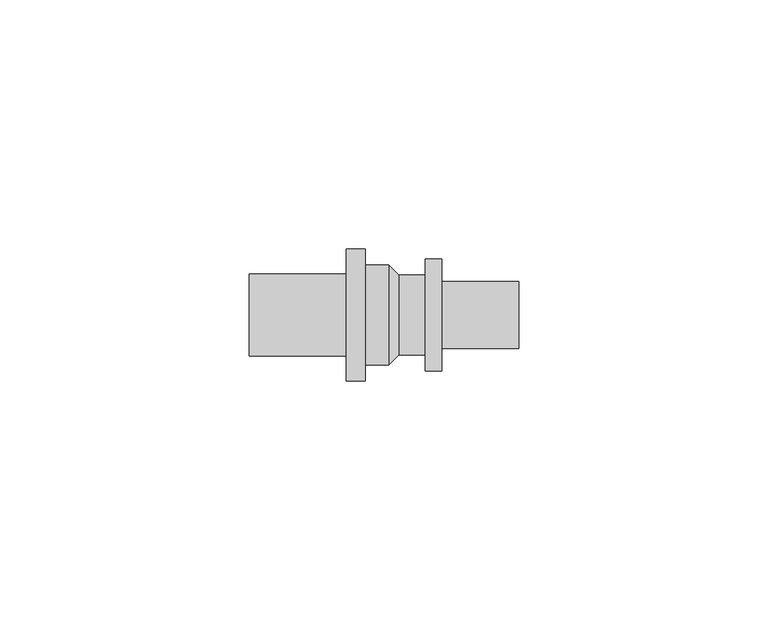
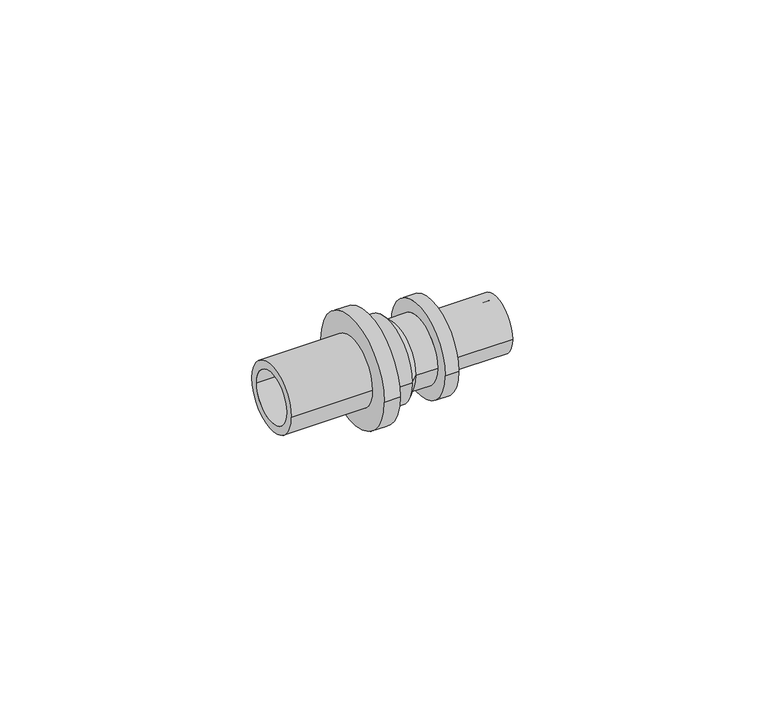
"""IFC4 building model written with IfcOpenShell, lengths in millimetres: pipe fitting geometry, RAUTITAN_Transition_LX : RTI LX Tr NL."""

import ifcopenshell
import ifcopenshell.guid

model = None  # the IFC model being written
_history = None  # IfcOwnerHistory: only IFC2X3 demands one
_inside = {}  # id of a spatial element -> (the spatial element, [elements in it])
_under = {}  # id of a project, library or spatial element -> (it, [spatial elements below it])
_declared = {}  # id of a project -> (the project, [libraries it declares])
_typed = {}  # id of a type object -> (the type object, [elements of that type])
_made_of = {}  # id of a material, layer set ... -> (it, [elements and type objects made of it])


def new_model(schema):
    """Start an empty IFC model of exactly this schema.

    Asked for "IFC4X3", IfcOpenShell would pick the latest addendum, in which some entities
    have other attributes; the version numbers below select the first issue.
    IFC2X3 requires an IfcOwnerHistory on every rooted entity: one is made here for all.
    """
    global model, _history
    if schema == "IFC4X3":
        model = ifcopenshell.file(schema_version=(4, 3, 0, 0))
    else:
        model = ifcopenshell.file(schema=schema)
    _inside.clear()
    _under.clear()
    _declared.clear()
    _typed.clear()
    _made_of.clear()
    _history = None
    if model.schema == "IFC2X3":
        org = make("IfcOrganization", Name="unknown")
        user = make(
            "IfcPersonAndOrganization",
            ThePerson=make("IfcPerson", FamilyName="unknown"),
            TheOrganization=org,
        )
        app = make(
            "IfcApplication",
            ApplicationDeveloper=org,
            Version="unknown",
            ApplicationFullName="unknown",
            ApplicationIdentifier="unknown",
        )
        _history = make(
            "IfcOwnerHistory",
            OwningUser=user,
            OwningApplication=app,
            ChangeAction="ADDED",
            CreationDate=0,
        )
    return model


def make(cls, **values):
    """One entity of the class cls with the attributes given. An attribute that is None is left unset."""
    return model.create_entity(
        cls, **{name: value for name, value in values.items() if value is not None}
    )


def rooted(cls, **values):
    """An entity with a GlobalId (a new one), such as an element, a storey or a relation."""
    return make(cls, GlobalId=ifcopenshell.guid.new(), OwnerHistory=_history, **values)


def si_unit(unit_type, name, prefix=None):
    """IfcSIUnit, for example si_unit("LENGTHUNIT", "METRE", prefix="MILLI")."""
    return make("IfcSIUnit", UnitType=unit_type, Prefix=prefix, Name=name)


def assignment(units):
    """IfcUnitAssignment: the units of a project."""
    return None if units is None else make("IfcUnitAssignment", Units=units)


def point(xyz):
    """IfcCartesianPoint."""
    return None if xyz is None else make("IfcCartesianPoint", Coordinates=xyz)


def direction(xyz):
    """IfcDirection."""
    return None if xyz is None else make("IfcDirection", DirectionRatios=xyz)


def frame(location, z_axis=None, x_axis=None):
    """IfcAxis2Placement3D, a coordinate frame: its origin and axes. An axis left out is left unset."""
    return make(
        "IfcAxis2Placement3D",
        Location=point(location),
        Axis=direction(z_axis),
        RefDirection=direction(x_axis),
    )


def origin():
    """The frame at (0, 0, 0) with its axes left unset."""
    return frame((0.0, 0.0, 0.0))


def place(relative_to, where):
    """IfcLocalPlacement: puts the frame where relative to a parent placement (None: the world)."""
    return make(
        "IfcLocalPlacement", PlacementRelTo=relative_to, RelativePlacement=where
    )


def context(
    kind, dimensions, precision=None, world=None, true_north=None, identifier=None
):
    """IfcGeometricRepresentationContext, for example the 3D "Model" context."""
    return make(
        "IfcGeometricRepresentationContext",
        ContextIdentifier=identifier,
        ContextType=kind,
        CoordinateSpaceDimension=dimensions,
        Precision=precision,
        WorldCoordinateSystem=world,
        TrueNorth=true_north,
    )


def project(units=None, contexts=None):
    """IfcProject with its units and contexts."""
    return rooted(
        "IfcProject",
        Name="project",
        RepresentationContexts=contexts,
        UnitsInContext=assignment(units),
    )


def spatial(cls, under=None, at=None, **own):
    """A site, building, storey or space (cls), placed at a placement, below another one or the project."""
    s = rooted(cls, ObjectPlacement=at, **own)
    if under is not None:
        _under.setdefault(under.id(), (under, []))[1].append(s)
    return s


def polyline(points):
    """IfcPolyline through the points."""
    return make("IfcPolyline", Points=[point(p) for p in points])


def circle_curve(where, radius):
    """IfcCircle in the frame where."""
    return make("IfcCircle", Position=where, Radius=radius)


def shape(context_of_items, identifier, shape_type, items):
    """IfcShapeRepresentation: the items that make up one representation, for example the "Body"."""
    return make(
        "IfcShapeRepresentation",
        ContextOfItems=context_of_items,
        RepresentationIdentifier=identifier,
        RepresentationType=shape_type,
        Items=items,
    )


def source(mapping_origin, context_of_items, identifier, shape_type, items):
    """IfcRepresentationMap: a shape defined once, which mapped items show again and again."""
    return make(
        "IfcRepresentationMap",
        MappingOrigin=mapping_origin,
        MappedRepresentation=shape(context_of_items, identifier, shape_type, items),
    )


def transform(
    local_origin,
    x_axis=None,
    y_axis=None,
    z_axis=None,
    scale=None,
    scale2=None,
    scale3=None,
    uniform=True,
):
    """IfcCartesianTransformationOperator3D, or its non-uniform kind. x_axis, y_axis, z_axis: its Axis1, 2, 3."""
    if uniform:
        return make(
            "IfcCartesianTransformationOperator3D",
            Axis1=direction(x_axis),
            Axis2=direction(y_axis),
            LocalOrigin=point(local_origin),
            Scale=scale,
            Axis3=direction(z_axis),
        )
    return make(
        "IfcCartesianTransformationOperator3DnonUniform",
        Axis1=direction(x_axis),
        Axis2=direction(y_axis),
        LocalOrigin=point(local_origin),
        Scale=scale,
        Axis3=direction(z_axis),
        Scale2=scale2,
        Scale3=scale3,
    )


def mapped(mapping_source, mapping_target):
    """IfcMappedItem: shows the shape of a source again, moved by a transform."""
    return make(
        "IfcMappedItem", MappingSource=mapping_source, MappingTarget=mapping_target
    )


def made_of(thing, what):
    """Note that an element or type object is made of a material, layer set ...; save() writes the relation."""
    if what is not None:
        _made_of.setdefault(what.id(), (what, []))[1].append(thing)
    return thing


def element(
    cls,
    number,
    at=None,
    inside=None,
    cuts=None,
    type_object=None,
    material=None,
    context=None,
    identifier="Body",
    shape_type=None,
    held_by="IfcProductDefinitionShape",
    body=None,
    shapes=None,
    **own,
):
    """One element of the class cls, such as IfcWall. Its Tag is "e" and its number.

    at: its placement. inside: the storey or other place that contains it. cuts: it is an
    opening in that element (IfcRelVoidsElement). A single representation is given by context,
    identifier, shape_type and body (its items); several are given by shapes. held_by: the class
    of the entity that holds the representations. save() writes the other relations.
    """
    e = rooted(cls, Tag="e%d" % number, ObjectPlacement=at, **own)
    if body is not None:
        shapes = [shape(context, identifier, shape_type, body)]
    if shapes is not None:
        e.Representation = make(held_by, Representations=shapes)
    if inside is not None:
        _inside.setdefault(inside.id(), (inside, []))[1].append(e)
    if cuts is not None:
        rooted(
            "IfcRelVoidsElement", RelatingBuildingElement=cuts, RelatedOpeningElement=e
        )
    if type_object is not None:
        _typed.setdefault(type_object.id(), (type_object, []))[1].append(e)
    return made_of(e, material)


def aggregate(whole, parts):
    """IfcRelAggregates: a whole, such as a stair, and the parts it consists of."""
    return rooted("IfcRelAggregates", RelatingObject=whole, RelatedObjects=parts)


def save(model, path):
    """Write the relations noted so far, then the file.

    IfcRelAggregates (storeys below a building ...), IfcRelContainedInSpatialStructure (elements
    in a storey), IfcRelDefinesByType, IfcRelAssociatesMaterial and IfcRelDeclares: one each for
    every whole, place, type object, material and project.
    """
    for whole, parts in _under.values():
        aggregate(whole, parts)
    for where, things in _inside.values():
        rooted(
            "IfcRelContainedInSpatialStructure",
            RelatedElements=things,
            RelatingStructure=where,
        )
    for kind, things in _typed.values():
        rooted("IfcRelDefinesByType", RelatedObjects=things, RelatingType=kind)
    for what, things in _made_of.values():
        rooted("IfcRelAssociatesMaterial", RelatedObjects=things, RelatingMaterial=what)
    for by, libraries in _declared.values():
        rooted("IfcRelDeclares", RelatingContext=by, RelatedDefinitions=libraries)
    model.write(path)


def plane_surface(at):
    """IfcPlane: the flat surface through the origin of the frame at, square to its z axis."""
    return make("IfcPlane", Position=at)


def cylinder_surface(at, radius):
    """IfcCylindricalSurface: all points at the distance radius from the z axis of the frame at."""
    return make("IfcCylindricalSurface", Position=at, Radius=radius)


def revolved_surface(curve, axis_point, axis_direction):
    """IfcSurfaceOfRevolution: the curve turned about the line through axis_point along axis_direction."""
    return make(
        "IfcSurfaceOfRevolution",
        SweptCurve=make("IfcArbitraryOpenProfileDef", ProfileType="CURVE", Curve=curve),
        AxisPosition=make("IfcAxis1Placement", Location=point(axis_point), Axis=direction(axis_direction)),
    )


def advanced_brep(points, edges, surfaces, faces):
    """IfcAdvancedBrep: a solid bounded by faces that lie on surfaces and meet in shared edges.

    An edge is (start, end): straight between two places in points (the first is 0);
    or (start, end, curve); or (start, end, curve, False) where it runs against its curve.
    A face is (place in surfaces, loops), or (place, loops, False) where it looks against
    its surface's normal. A loop lists edges by number (the first is 1), with a minus sign
    where the edge is run from its end to its start. The first loop is the outer one.
    """
    corners = [point(p) for p in points]
    vertices = [make("IfcVertexPoint", VertexGeometry=c) for c in corners]
    made = []
    for start, end, *more in edges:
        made.append(
            make(
                "IfcEdgeCurve",
                EdgeStart=vertices[start],
                EdgeEnd=vertices[end],
                EdgeGeometry=more[0] if more else make("IfcPolyline", Points=[corners[start], corners[end]]),
                SameSense=more[1] if len(more) > 1 else True,
            )
        )
    hull = []
    for where, loops, *sense in faces:
        bounds = []
        for j, loop in enumerate(loops):
            ring = [make("IfcOrientedEdge", EdgeElement=made[abs(k) - 1], Orientation=k > 0) for k in loop]
            bounds.append(
                make(
                    "IfcFaceOuterBound" if j == 0 else "IfcFaceBound",
                    Bound=make("IfcEdgeLoop", EdgeList=ring),
                    Orientation=True,
                )
            )
        hull.append(make("IfcAdvancedFace", Bounds=bounds, FaceSurface=surfaces[where], SameSense=sense[0] if sense else True))
    return make("IfcAdvancedBrep", Outer=make("IfcClosedShell", CfsFaces=hull))


def pipe_fitting_a8e717c4(model_context):
    return source(origin(), model_context, "Body", "AdvancedBrep", [
        advanced_brep(
        [(-29.05, 6.25, 0.0), (-29.05, -6.25, 0.0), (-0.65, -6.25, 0.0), (-0.65, 6.25, 0.0), (-1.0, 10.05, 0.0), (-1.0, -10.05, 0.0), (-5.75, -10.05, 0.0), (-5.75, 10.05, 0.0), (1.0, 8.05, 0.0), (1.0, -8.05, 0.0), (6.25, 8.05, 0.0), (6.25, -8.05, 0.0), (9.55, 11.25, 0.0), (9.55, -11.25, 0.0), (6.25, -11.25, 0.0), (6.25, 11.25, 0.0), (25.05, 6.75, 0.0), (25.05, -6.75, 0.0), (9.55, -6.75, 0.0), (9.55, 6.75, 0.0), (0.65, 4.95, 0.0), (0.65, -4.95, 0.0), (25.05, -4.95, 0.0), (25.05, 4.95, 0.0), (-5.75, 13.25, 0.0), (-5.75, -13.25, 0.0), (-9.55, 8.25, 0.0), (-9.55, -8.25, 0.0), (-29.05, -8.25, 0.0), (-29.05, 8.25, 0.0), (-9.55, -13.25, 0.0), (-9.55, 13.25, 0.0)],
        [
            (0, 1, circle_curve(frame((-29.05, 0.0, 0.0), z_axis=(-1.0, 0.0, 0.0), x_axis=(0.0, -1.0, 0.0)), 6.25)),
            (1, 2),
            (2, 3, circle_curve(frame((-0.65, 0.0, 0.0), z_axis=(1.0, 0.0, 0.0), x_axis=(0.0, -1.0, 0.0)), 6.25)),
            (3, 0),
            (4, 5, circle_curve(frame((-1.0, 0.0, 0.0), z_axis=(-1.0, 0.0, 0.0), x_axis=(0.0, -1.0, 0.0)), 10.05)),
            (5, 6),
            (6, 7, circle_curve(frame((-5.75, 0.0, 0.0), z_axis=(1.0, 0.0, 0.0), x_axis=(0.0, -1.0, 0.0)), 10.05)),
            (7, 4),
            (8, 9, circle_curve(frame((1.0, 0.0, 0.0), z_axis=(-1.0, 0.0, 0.0), x_axis=(0.0, -1.0, 0.0)), 8.05)),
            (9, 5),
            (4, 8),
            (10, 11, circle_curve(frame((6.25, 0.0, 0.0), z_axis=(-1.0, 0.0, 0.0), x_axis=(0.0, -1.0, 0.0)), 8.05)),
            (11, 9),
            (8, 10),
            (12, 13, circle_curve(frame((9.55, 0.0, 0.0), z_axis=(-1.0, 0.0, 0.0), x_axis=(0.0, -1.0, 0.0)), 11.25)),
            (13, 14),
            (14, 15, circle_curve(frame((6.25, 0.0, 0.0), z_axis=(1.0, 0.0, 0.0), x_axis=(0.0, -1.0, 0.0)), 11.25)),
            (15, 12),
            (16, 17, circle_curve(frame((25.05, 0.0, 0.0), z_axis=(-1.0, 0.0, 0.0), x_axis=(0.0, -1.0, 0.0)), 6.75)),
            (17, 18),
            (18, 19, circle_curve(frame((9.55, 0.0, 0.0), z_axis=(1.0, 0.0, 0.0), x_axis=(0.0, -1.0, 0.0)), 6.75)),
            (19, 16),
            (20, 21, circle_curve(frame((0.65, 0.0, 0.0), z_axis=(-1.0, 0.0, 0.0), x_axis=(0.0, -1.0, 0.0)), 4.95)),
            (21, 22),
            (22, 23, circle_curve(frame((25.05, 0.0, 0.0), z_axis=(1.0, 0.0, 0.0), x_axis=(0.0, -1.0, 0.0)), 4.95)),
            (23, 20),
            (2, 21),
            (20, 3),
            (1, 0, circle_curve(frame((-29.05, 0.0, 0.0), z_axis=(-1.0, 0.0, 0.0), x_axis=(0.0, 1.0, 0.0)), 6.25)),
            (3, 2, circle_curve(frame((-0.65, 0.0, 0.0), z_axis=(1.0, 0.0, 0.0), x_axis=(0.0, 1.0, 0.0)), 6.25)),
            (24, 25, circle_curve(frame((-5.75, 0.0, 0.0), z_axis=(1.0, 0.0, 0.0), x_axis=(0.0, 1.0, 0.0)), 13.25)),
            (25, 24, circle_curve(frame((-5.75, 0.0, 0.0), z_axis=(1.0, 0.0, 0.0), x_axis=(0.0, -1.0, 0.0)), 13.25)),
            (6, 7, circle_curve(frame((-5.75, 0.0, 0.0), z_axis=(-1.0, 0.0, 0.0), x_axis=(0.0, 1.0, 0.0)), 10.05)),
            (5, 4, circle_curve(frame((-1.0, 0.0, 0.0), z_axis=(-1.0, 0.0, 0.0), x_axis=(0.0, 1.0, 0.0)), 10.05)),
            (9, 8, circle_curve(frame((1.0, 0.0, 0.0), z_axis=(-1.0, 0.0, 0.0), x_axis=(0.0, 1.0, 0.0)), 8.05)),
            (11, 10, circle_curve(frame((6.25, 0.0, 0.0), z_axis=(-1.0, 0.0, 0.0), x_axis=(0.0, 1.0, 0.0)), 8.05)),
            (14, 15, circle_curve(frame((6.25, 0.0, 0.0), z_axis=(-1.0, 0.0, 0.0), x_axis=(0.0, 1.0, 0.0)), 11.25)),
            (13, 12, circle_curve(frame((9.55, 0.0, 0.0), z_axis=(-1.0, 0.0, 0.0), x_axis=(0.0, 1.0, 0.0)), 11.25)),
            (18, 19, circle_curve(frame((9.55, 0.0, 0.0), z_axis=(-1.0, 0.0, 0.0), x_axis=(0.0, 1.0, 0.0)), 6.75)),
            (17, 16, circle_curve(frame((25.05, 0.0, 0.0), z_axis=(-1.0, 0.0, 0.0), x_axis=(0.0, 1.0, 0.0)), 6.75)),
            (22, 23, circle_curve(frame((25.05, 0.0, 0.0), z_axis=(-1.0, 0.0, 0.0), x_axis=(0.0, 1.0, 0.0)), 4.95)),
            (21, 20, circle_curve(frame((0.65, 0.0, 0.0), z_axis=(-1.0, 0.0, 0.0), x_axis=(0.0, 1.0, 0.0)), 4.95)),
            (26, 27, circle_curve(frame((-9.55, 0.0, 0.0), z_axis=(-1.0, 0.0, 0.0), x_axis=(0.0, -1.0, 0.0)), 8.25)),
            (27, 28),
            (28, 29, circle_curve(frame((-29.05, 0.0, 0.0), z_axis=(1.0, 0.0, 0.0), x_axis=(0.0, -1.0, 0.0)), 8.25)),
            (29, 26),
            (25, 30),
            (30, 31, circle_curve(frame((-9.55, 0.0, 0.0), z_axis=(1.0, 0.0, 0.0), x_axis=(0.0, -1.0, 0.0)), 13.25)),
            (31, 24),
            (28, 29, circle_curve(frame((-29.05, 0.0, 0.0), z_axis=(-1.0, 0.0, 0.0), x_axis=(0.0, 1.0, 0.0)), 8.25)),
            (27, 26, circle_curve(frame((-9.55, 0.0, 0.0), z_axis=(-1.0, 0.0, 0.0), x_axis=(0.0, 1.0, 0.0)), 8.25)),
            (30, 31, circle_curve(frame((-9.55, 0.0, 0.0), z_axis=(-1.0, 0.0, 0.0), x_axis=(0.0, 1.0, 0.0)), 13.25)),
        ],
        [
            revolved_surface(polyline([(-0.65, -6.25, 0.0), (-29.05, -6.25, 0.0)]), (0.0, 0.0, 0.0), (1.0, 0.0, 0.0)),
            cylinder_surface(frame((0.0, 0.0, 0.0), z_axis=(1.0, 0.0, 0.0), x_axis=(0.0, -1.0, 0.0)), 10.05),
            revolved_surface(polyline([(-1.0, -10.05, 0.0), (1.0, -8.05, 0.0)]), (0.0, 0.0, 0.0), (1.0, 0.0, 0.0)),
            cylinder_surface(frame((0.0, 0.0, 0.0), z_axis=(1.0, 0.0, 0.0), x_axis=(0.0, -1.0, 0.0)), 8.05),
            cylinder_surface(frame((0.0, 0.0, 0.0), z_axis=(1.0, 0.0, 0.0), x_axis=(0.0, -1.0, 0.0)), 11.25),
            cylinder_surface(frame((0.0, 0.0, 0.0), z_axis=(1.0, 0.0, 0.0), x_axis=(0.0, -1.0, 0.0)), 6.75),
            revolved_surface(polyline([(25.05, -4.95, 0.0), (0.65, -4.95, 0.0)]), (0.0, 0.0, 0.0), (1.0, 0.0, 0.0)),
            revolved_surface(polyline([(0.65, -4.95, 0.0), (-0.65, -6.25, 0.0)]), (0.0, 0.0, 0.0), (1.0, 0.0, 0.0)),
            revolved_surface(polyline([(-0.65, 6.25, 0.0), (-29.05, 6.25, 0.0)]), (0.0, 0.0, 0.0), (1.0, 0.0, 0.0)),
            plane_surface(frame((-5.75, 0.0, 0.0), z_axis=(1.0, 0.0, 0.0), x_axis=(0.0, 1.0, 0.0))),
            cylinder_surface(frame((0.0, 0.0, 0.0), z_axis=(1.0, 0.0, 0.0), x_axis=(0.0, 1.0, 0.0)), 10.05),
            revolved_surface(polyline([(-1.0, 10.05, 0.0), (1.0, 8.05, 0.0)]), (0.0, 0.0, 0.0), (1.0, 0.0, 0.0)),
            cylinder_surface(frame((0.0, 0.0, 0.0), z_axis=(1.0, 0.0, 0.0), x_axis=(0.0, 1.0, 0.0)), 8.05),
            plane_surface(frame((6.25, 0.0, 0.0), z_axis=(-1.0, 0.0, 0.0), x_axis=(0.0, 1.0, 0.0))),
            cylinder_surface(frame((0.0, 0.0, 0.0), z_axis=(1.0, 0.0, 0.0), x_axis=(0.0, 1.0, 0.0)), 11.25),
            plane_surface(frame((9.55, 0.0, 0.0), z_axis=(1.0, 0.0, 0.0), x_axis=(0.0, 1.0, 0.0))),
            cylinder_surface(frame((0.0, 0.0, 0.0), z_axis=(1.0, 0.0, 0.0), x_axis=(0.0, 1.0, 0.0)), 6.75),
            plane_surface(frame((25.05, 0.0, 0.0), z_axis=(1.0, 0.0, 0.0), x_axis=(0.0, 1.0, 0.0))),
            revolved_surface(polyline([(25.05, 4.95, 0.0), (0.65, 4.95, 0.0)]), (0.0, 0.0, 0.0), (1.0, 0.0, 0.0)),
            revolved_surface(polyline([(0.65, 4.95, 0.0), (-0.65, 6.25, 0.0)]), (0.0, 0.0, 0.0), (1.0, 0.0, 0.0)),
            cylinder_surface(frame((0.0, 0.0, 0.0), z_axis=(1.0, 0.0, 0.0), x_axis=(0.0, -1.0, 0.0)), 8.25),
            cylinder_surface(frame((0.0, 0.0, 0.0), z_axis=(1.0, 0.0, 0.0), x_axis=(0.0, -1.0, 0.0)), 13.25),
            plane_surface(frame((-29.05, 0.0, 0.0), z_axis=(-1.0, 0.0, 0.0), x_axis=(0.0, 1.0, 0.0))),
            cylinder_surface(frame((0.0, 0.0, 0.0), z_axis=(1.0, 0.0, 0.0), x_axis=(0.0, 1.0, 0.0)), 8.25),
            plane_surface(frame((-9.55, 0.0, 0.0), z_axis=(-1.0, 0.0, 0.0), x_axis=(0.0, 1.0, 0.0))),
            cylinder_surface(frame((0.0, 0.0, 0.0), z_axis=(1.0, 0.0, 0.0), x_axis=(0.0, 1.0, 0.0)), 13.25),
        ],
        [
            (0, [[1, 2, 3, 4]]),
            (1, [[5, 6, 7, 8]]),
            (2, [[9, 10, -5, 11]]),
            (3, [[12, 13, -9, 14]]),
            (4, [[15, 16, 17, 18]]),
            (5, [[19, 20, 21, 22]]),
            (6, [[23, 24, 25, 26]]),
            (7, [[-3, 27, -23, 28]]),
            (8, [[29, -4, 30, -2]]),
            (9, [[31, 32], [33, -7]]),
            (10, [[34, -8, -33, -6]]),
            (11, [[35, -11, -34, -10]]),
            (12, [[36, -14, -35, -13]]),
            (13, [[37, -17], [-36, -12]]),
            (14, [[38, -18, -37, -16]]),
            (15, [[-38, -15], [39, -21]]),
            (16, [[40, -22, -39, -20]]),
            (17, [[-40, -19], [41, -25]]),
            (18, [[42, -26, -41, -24]]),
            (19, [[-30, -28, -42, -27]]),
            (20, [[43, 44, 45, 46]]),
            (21, [[-32, 47, 48, 49]]),
            (22, [[50, -45], [-29, -1]]),
            (23, [[51, -46, -50, -44]]),
            (24, [[52, -48], [-51, -43]]),
            (25, [[-31, -49, -52, -47]]),
        ],
    ),
    ])


if __name__ == "__main__":
    model = new_model("IFC4")
    model_context = context("Model", 3, world=origin())
    ifc_project = project(units=[si_unit("LENGTHUNIT", "METRE", prefix="MILLI")], contexts=[model_context])
    site = spatial("IfcSite", under=ifc_project)
    building = spatial("IfcBuilding", under=site)
    placement = place(None, origin())
    pipe_fitting_shape = pipe_fitting_a8e717c4(model_context)
    element("IfcPipeFitting", 1, ObjectType="RAUTITAN_Transition_LX : RTI LX Tr NL", at=placement, inside=building, context=model_context, shape_type="MappedRepresentation", body=[
        mapped(pipe_fitting_shape, transform((0.0, 0.0, 0.0), x_axis=(1.0, 0.0, 0.0), y_axis=(0.0, 1.0, 0.0), z_axis=(0.0, 0.0, 1.0))),
    ])
    save(model, "model.ifc")
